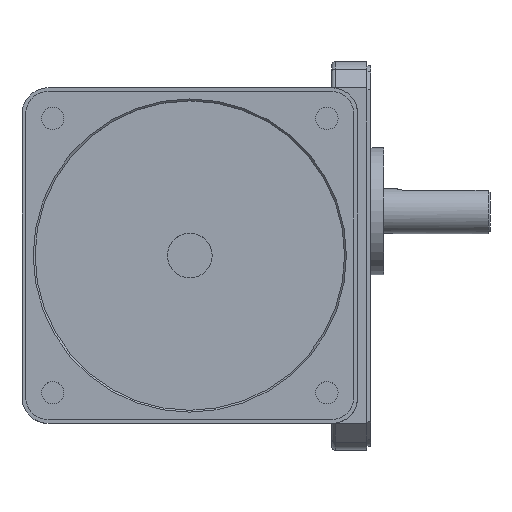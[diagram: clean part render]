
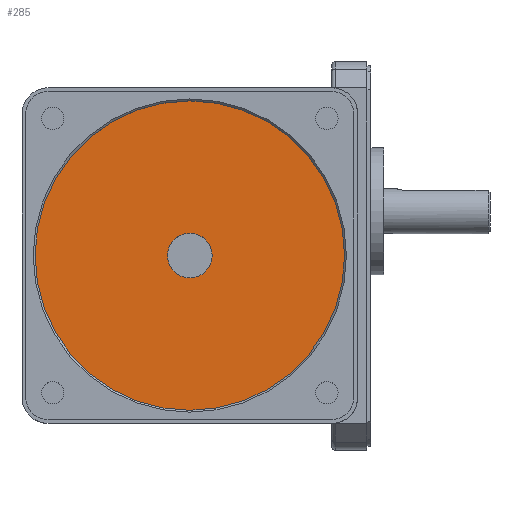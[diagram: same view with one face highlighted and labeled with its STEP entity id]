
A CAD part, top view. The second image highlights one B-rep face of the part: STEP entity #285.
In plain terms, the highlighted planar face has unit normal (0, 0, 1).
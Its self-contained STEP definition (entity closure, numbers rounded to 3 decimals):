
#258=CARTESIAN_POINT('',(0.0,0.0,22.7));
#259=DIRECTION('',(0.0,0.0,-1.0));
#260=DIRECTION('',(-1.0,0.0,0.0));
#261=AXIS2_PLACEMENT_3D('',#258,#259,#260);
#262=PLANE('',#261);
#263=CARTESIAN_POINT('',(41.5,0.,22.7));
#264=VERTEX_POINT('',#263);
#265=CARTESIAN_POINT('',(0.0,0.0,22.7));
#266=DIRECTION('',(0.0,0.0,1.0));
#267=DIRECTION('',(-1.0,0.0,0.0));
#268=AXIS2_PLACEMENT_3D('',#265,#266,#267);
#269=CIRCLE('',#268,41.5);
#270=EDGE_CURVE('',#264,#264,#269,.T.);
#271=ORIENTED_EDGE('',*,*,#270,.T.);
#272=EDGE_LOOP('',(#271));
#273=FACE_OUTER_BOUND('',#272,.T.);
#274=CARTESIAN_POINT('',(6.,0.,22.7));
#275=VERTEX_POINT('',#274);
#276=CARTESIAN_POINT('',(0.0,0.0,22.7));
#277=DIRECTION('',(0.0,0.0,1.0));
#278=DIRECTION('',(-1.0,0.0,0.0));
#279=AXIS2_PLACEMENT_3D('',#276,#277,#278);
#280=CIRCLE('',#279,6.);
#281=EDGE_CURVE('',#275,#275,#280,.T.);
#282=ORIENTED_EDGE('',*,*,#281,.F.);
#283=EDGE_LOOP('',(#282));
#284=FACE_BOUND('',#283,.T.);
#285=ADVANCED_FACE('',(#273,#284),#262,.F.);
